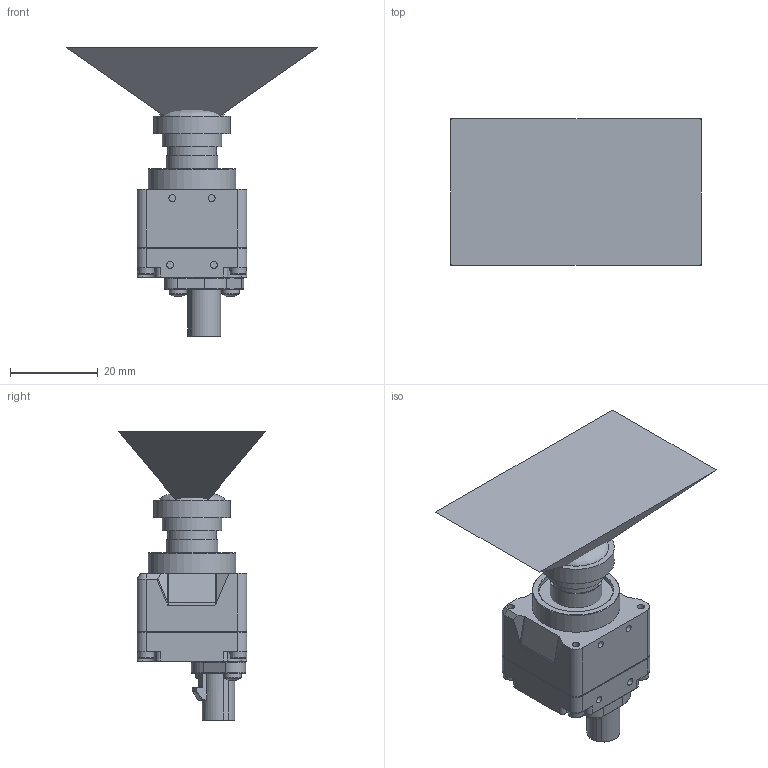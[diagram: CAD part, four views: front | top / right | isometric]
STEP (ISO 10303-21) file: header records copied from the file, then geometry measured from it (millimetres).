
FILE_DESCRIPTION(/* description */ ('STEP AP242 Edition 2','CAx-IF Rec.Pracs.---Representation and Presentation of Product Manufacturing Information (PMI)---4.0---2014-10-13','CAx-IF Rec.Pracs.---3D Tessellated Geometry---0.4---2014-09-14','2;1','CAx-IF Rec.Pracs.---User Defined Attributes---1.5---2016-08-15'),/* implementation_level */ '2;1');
FILE_NAME(/* name */ '69287025fa4dea6d2713afbe',/* time_stamp */ '2025-11-27T15:37:10Z',/* author */ (''),/* organization */ (''),/* preprocessor_version */ 'ST-DEVELOPER v20',/* originating_system */ 'ONSHAPE BY PTC INC, 1.207',/* authorisation */ ' ');
FILE_SCHEMA (('AP242_MANAGED_MODEL_BASED_3D_ENGINEERING_MIM_LF { 1 0 10303 442 3 1 4 }'));
Length unit declared in the file: metre
Products named in the file (11): ZED X One GS Compact Wide; Camera Component - Body ZED X One - Rear; Hexalobular socket head cap screw ISO14579 M2x0.4x10; Hexalobular socket pan head screw ISO 14583 M2x5; Wide lens <1>; FOV; Wide lens; Image plane; Camera Component - Connector - FAKRA Plug; Camera Component - Seal - ZED X One; Camera Component - Body ZED X One - Front
Assembly tree (14 placements, depth 3):
  ZED X One GS Compact Wide
    Camera Component - Body ZED X One - Rear
    Hexalobular socket head cap screw ISO14579 M2x0.4x10  x4
    Hexalobular socket pan head screw ISO 14583 M2x5  x2
    Wide lens <1>
      FOV
      Wide lens
      Image plane
    Camera Component - Connector - FAKRA Plug
    Camera Component - Seal - ZED X One
    Camera Component - Body ZED X One - Front
Bounding box: 57.13 x 33.56 x 65.93 mm (x, y, z)
Volume: 23697.4 mm3; surface area: 14875.8 mm2
Topology: 13 solids, 13 shells, 845 faces, 2140 edges, 1362 vertices
Faces by surface type: cylinder 327, plane 317, cone 149, torus 37, bspline 9, sphere 6
Full cylindrical faces by diameter (mm): 0.5 x1, 0.55 x1, 0.95 x3, 1.2 x1, 1.6 x2, 1.623 x10, 1.754 x6, 2 x6, 2.03 x1, 2.1 x4, 2.2 x1, 2.4 x2, 2.45 x1, 3.685 x1, 3.8 x1, 4 x2, 4.35 x1, 5.3 x1, 5.4 x1, 6.2 x1, 6.3 x1, 6.5 x1, 8.62 x1, 9.6 x1, 11.2 x2, 11.529 x1, 11.834 x1, 13.6 x1, 14 x1, 15.2 x1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
Entity records: 23001 total; most frequent: CARTESIAN_POINT 5181, DIRECTION 3772, ORIENTED_EDGE 3476, EDGE_CURVE 1738, AXIS2_PLACEMENT_3D 1386, VERTEX_POINT 1162, LINE 1000, VECTOR 1000
